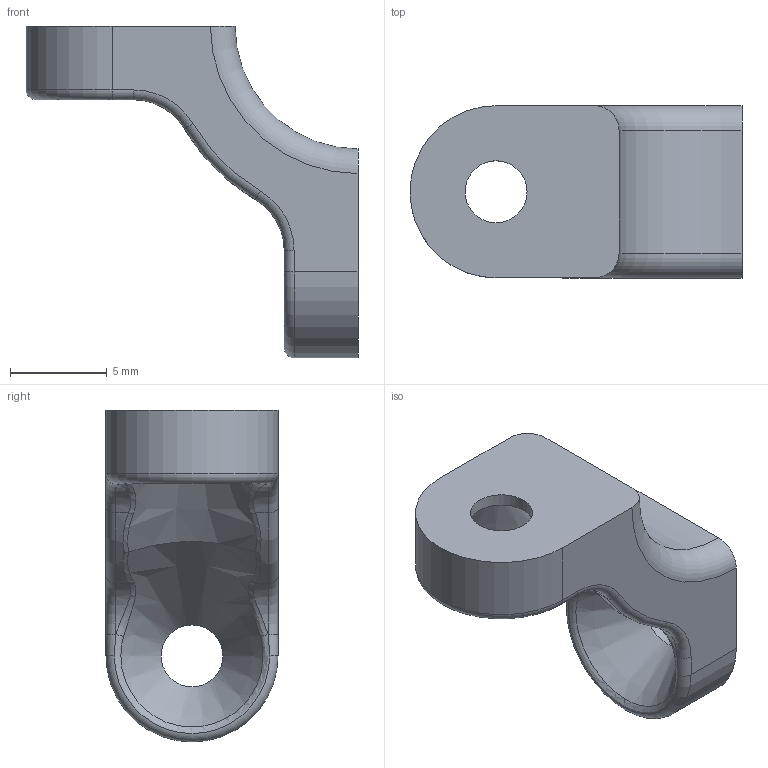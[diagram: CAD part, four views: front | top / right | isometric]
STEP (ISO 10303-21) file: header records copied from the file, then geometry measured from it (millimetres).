
FILE_DESCRIPTION(/* description */ (''),/* implementation_level */ '2;1');
FILE_NAME(/* name */ '2025_11_28_petesquared_cable_management_corner.step',/* time_stamp */ '2025-11-28T05:48:50-08:00',/* author */ (''),/* organization */ (''),/* preprocessor_version */ 'ST-DEVELOPER v20.1',/* originating_system */ 'Autodesk Translation Framework v14.21.0.0',/* authorisation */ '');
FILE_SCHEMA (('AUTOMOTIVE_DESIGN { 1 0 10303 214 3 1 1 }'));
Length unit declared in the file: inch
Products named in the file (1): 3dprinter_stand_cable_management
Bounding box: 17.14 x 8.89 x 17.14 mm (x, y, z)
Volume: 680.3 mm3; surface area: 722.2 mm2
Topology: 1 solids, 1 shells, 45 faces, 119 edges, 74 vertices
Faces by surface type: cylinder 15, torus 12, bspline 8, plane 8, cone 2
Full cylindrical faces by diameter (mm): 3.2 x2
Entity records: 1651 total; most frequent: CARTESIAN_POINT 527, ORIENTED_EDGE 238, DIRECTION 224, EDGE_CURVE 119, AXIS2_PLACEMENT_3D 97, VERTEX_POINT 74, CIRCLE 58, EDGE_LOOP 47
